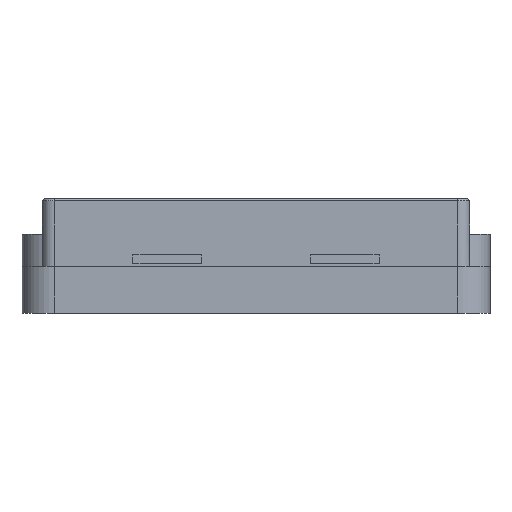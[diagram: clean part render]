
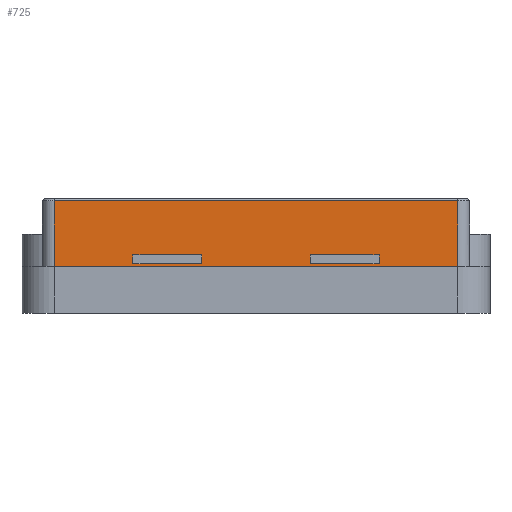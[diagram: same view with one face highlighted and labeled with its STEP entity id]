
A CAD part, left-side view. The second image highlights one B-rep face of the part: STEP entity #725.
In plain terms, the highlighted free-form (B-spline) face has degree [1, 1] with [2, 2] control points.
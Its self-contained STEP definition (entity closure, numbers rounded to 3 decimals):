
#134 = VERTEX_POINT('',#135);
#135 = CARTESIAN_POINT('',(-26.5,-25.,5.8));
#143 = EDGE_CURVE('',#134,#144,#146,.T.);
#144 = VERTEX_POINT('',#145);
#145 = CARTESIAN_POINT('',(-26.5,25.,5.8));
#146 = B_SPLINE_CURVE_WITH_KNOTS('',1,(#147,#148),.UNSPECIFIED.,.F.,.F.,
  (2,2),(1.5,51.5),.PIECEWISE_BEZIER_KNOTS.);
#147 = CARTESIAN_POINT('',(-26.5,-25.,5.8));
#148 = CARTESIAN_POINT('',(-26.5,25.,5.8));
#377 = EDGE_CURVE('',#134,#378,#380,.T.);
#378 = VERTEX_POINT('',#379);
#379 = CARTESIAN_POINT('',(-26.5,-25.,13.95));
#380 = B_SPLINE_CURVE_WITH_KNOTS('',1,(#381,#382),.UNSPECIFIED.,.F.,.F.,
  (2,2),(0.,8.15),.PIECEWISE_BEZIER_KNOTS.);
#381 = CARTESIAN_POINT('',(-26.5,-25.,5.8));
#382 = CARTESIAN_POINT('',(-26.5,-25.,13.95));
#704 = EDGE_CURVE('',#144,#705,#707,.T.);
#705 = VERTEX_POINT('',#706);
#706 = CARTESIAN_POINT('',(-26.5,25.,13.95));
#707 = B_SPLINE_CURVE_WITH_KNOTS('',1,(#708,#709),.UNSPECIFIED.,.F.,.F.,
  (2,2),(0.,8.15),.PIECEWISE_BEZIER_KNOTS.);
#708 = CARTESIAN_POINT('',(-26.5,25.,5.8));
#709 = CARTESIAN_POINT('',(-26.5,25.,13.95));
#725 = ADVANCED_FACE('',(#726,#736,#766),#796,.F.);
#726 = FACE_BOUND('',#727,.F.);
#727 = EDGE_LOOP('',(#728,#729,#730,#731));
#728 = ORIENTED_EDGE('',*,*,#377,.F.);
#729 = ORIENTED_EDGE('',*,*,#143,.T.);
#730 = ORIENTED_EDGE('',*,*,#704,.T.);
#731 = ORIENTED_EDGE('',*,*,#732,.F.);
#732 = EDGE_CURVE('',#378,#705,#733,.T.);
#733 = B_SPLINE_CURVE_WITH_KNOTS('',1,(#734,#735),.UNSPECIFIED.,.F.,.F.,
  (2,2),(-0.,50.),.PIECEWISE_BEZIER_KNOTS.);
#734 = CARTESIAN_POINT('',(-26.5,-25.,13.95));
#735 = CARTESIAN_POINT('',(-26.5,25.,13.95));
#736 = FACE_BOUND('',#737,.F.);
#737 = EDGE_LOOP('',(#738,#747,#754,#761));
#738 = ORIENTED_EDGE('',*,*,#739,.T.);
#739 = EDGE_CURVE('',#740,#742,#744,.T.);
#740 = VERTEX_POINT('',#741);
#741 = CARTESIAN_POINT('',(-26.5,15.25,6.15));
#742 = VERTEX_POINT('',#743);
#743 = CARTESIAN_POINT('',(-26.5,6.75,6.15));
#744 = B_SPLINE_CURVE_WITH_KNOTS('',1,(#745,#746),.UNSPECIFIED.,.F.,.F.,
  (2,2),(-25.125,-16.625),.PIECEWISE_BEZIER_KNOTS.);
#745 = CARTESIAN_POINT('',(-26.5,15.25,6.15));
#746 = CARTESIAN_POINT('',(-26.5,6.75,6.15));
#747 = ORIENTED_EDGE('',*,*,#748,.T.);
#748 = EDGE_CURVE('',#742,#749,#751,.T.);
#749 = VERTEX_POINT('',#750);
#750 = CARTESIAN_POINT('',(-26.5,6.75,7.25));
#751 = B_SPLINE_CURVE_WITH_KNOTS('',1,(#752,#753),.UNSPECIFIED.,.F.,.F.,
  (2,2),(0.175,1.275),.PIECEWISE_BEZIER_KNOTS.);
#752 = CARTESIAN_POINT('',(-26.5,6.75,6.15));
#753 = CARTESIAN_POINT('',(-26.5,6.75,7.25));
#754 = ORIENTED_EDGE('',*,*,#755,.F.);
#755 = EDGE_CURVE('',#756,#749,#758,.T.);
#756 = VERTEX_POINT('',#757);
#757 = CARTESIAN_POINT('',(-26.5,15.25,7.25));
#758 = B_SPLINE_CURVE_WITH_KNOTS('',1,(#759,#760),.UNSPECIFIED.,.F.,.F.,
  (2,2),(-25.125,-16.625),.PIECEWISE_BEZIER_KNOTS.);
#759 = CARTESIAN_POINT('',(-26.5,15.25,7.25));
#760 = CARTESIAN_POINT('',(-26.5,6.75,7.25));
#761 = ORIENTED_EDGE('',*,*,#762,.F.);
#762 = EDGE_CURVE('',#740,#756,#763,.T.);
#763 = B_SPLINE_CURVE_WITH_KNOTS('',1,(#764,#765),.UNSPECIFIED.,.F.,.F.,
  (2,2),(0.175,1.275),.PIECEWISE_BEZIER_KNOTS.);
#764 = CARTESIAN_POINT('',(-26.5,15.25,6.15));
#765 = CARTESIAN_POINT('',(-26.5,15.25,7.25));
#766 = FACE_BOUND('',#767,.F.);
#767 = EDGE_LOOP('',(#768,#777,#784,#791));
#768 = ORIENTED_EDGE('',*,*,#769,.T.);
#769 = EDGE_CURVE('',#770,#772,#774,.T.);
#770 = VERTEX_POINT('',#771);
#771 = CARTESIAN_POINT('',(-26.5,-6.75,6.15));
#772 = VERTEX_POINT('',#773);
#773 = CARTESIAN_POINT('',(-26.5,-15.25,6.15));
#774 = B_SPLINE_CURVE_WITH_KNOTS('',1,(#775,#776),.UNSPECIFIED.,.F.,.F.,
  (2,2),(-14.125,-5.625),.PIECEWISE_BEZIER_KNOTS.);
#775 = CARTESIAN_POINT('',(-26.5,-6.75,6.15));
#776 = CARTESIAN_POINT('',(-26.5,-15.25,6.15));
#777 = ORIENTED_EDGE('',*,*,#778,.T.);
#778 = EDGE_CURVE('',#772,#779,#781,.T.);
#779 = VERTEX_POINT('',#780);
#780 = CARTESIAN_POINT('',(-26.5,-15.25,7.25));
#781 = B_SPLINE_CURVE_WITH_KNOTS('',1,(#782,#783),.UNSPECIFIED.,.F.,.F.,
  (2,2),(0.175,1.275),.PIECEWISE_BEZIER_KNOTS.);
#782 = CARTESIAN_POINT('',(-26.5,-15.25,6.15));
#783 = CARTESIAN_POINT('',(-26.5,-15.25,7.25));
#784 = ORIENTED_EDGE('',*,*,#785,.F.);
#785 = EDGE_CURVE('',#786,#779,#788,.T.);
#786 = VERTEX_POINT('',#787);
#787 = CARTESIAN_POINT('',(-26.5,-6.75,7.25));
#788 = B_SPLINE_CURVE_WITH_KNOTS('',1,(#789,#790),.UNSPECIFIED.,.F.,.F.,
  (2,2),(-14.125,-5.625),.PIECEWISE_BEZIER_KNOTS.);
#789 = CARTESIAN_POINT('',(-26.5,-6.75,7.25));
#790 = CARTESIAN_POINT('',(-26.5,-15.25,7.25));
#791 = ORIENTED_EDGE('',*,*,#792,.F.);
#792 = EDGE_CURVE('',#770,#786,#793,.T.);
#793 = B_SPLINE_CURVE_WITH_KNOTS('',1,(#794,#795),.UNSPECIFIED.,.F.,.F.,
  (2,2),(0.175,1.275),.PIECEWISE_BEZIER_KNOTS.);
#794 = CARTESIAN_POINT('',(-26.5,-6.75,6.15));
#795 = CARTESIAN_POINT('',(-26.5,-6.75,7.25));
#796 = B_SPLINE_SURFACE_WITH_KNOTS('',1,1,(
    (#797,#798)
    ,(#799,#800
    )),.UNSPECIFIED.,.F.,.F.,.F.,(2,2),(2,2),(0.,8.15),(-51.5,-1.5),
  .PIECEWISE_BEZIER_KNOTS.);
#797 = CARTESIAN_POINT('',(-26.5,25.,5.8));
#798 = CARTESIAN_POINT('',(-26.5,-25.,5.8));
#799 = CARTESIAN_POINT('',(-26.5,25.,13.95));
#800 = CARTESIAN_POINT('',(-26.5,-25.,13.95));
